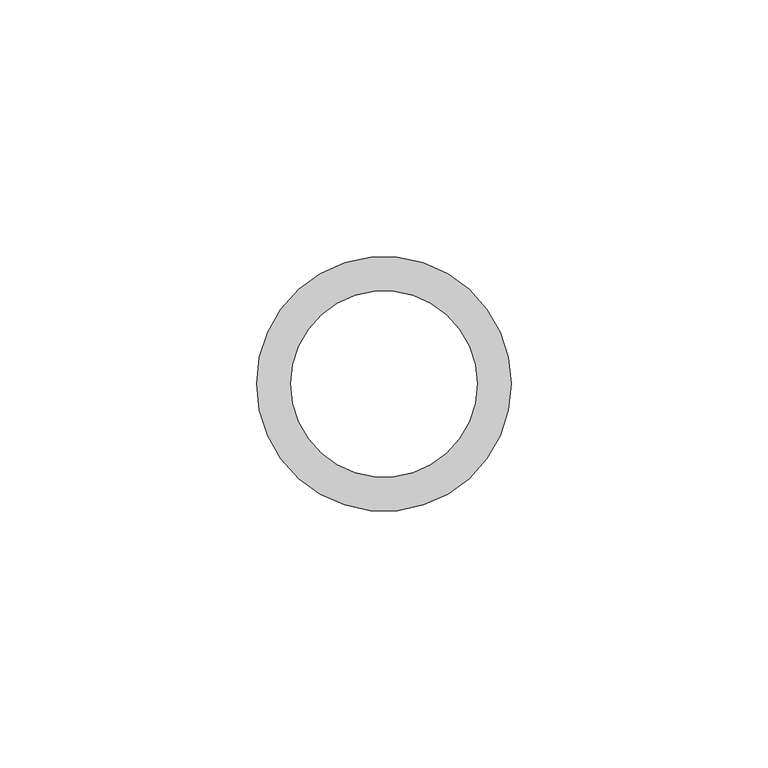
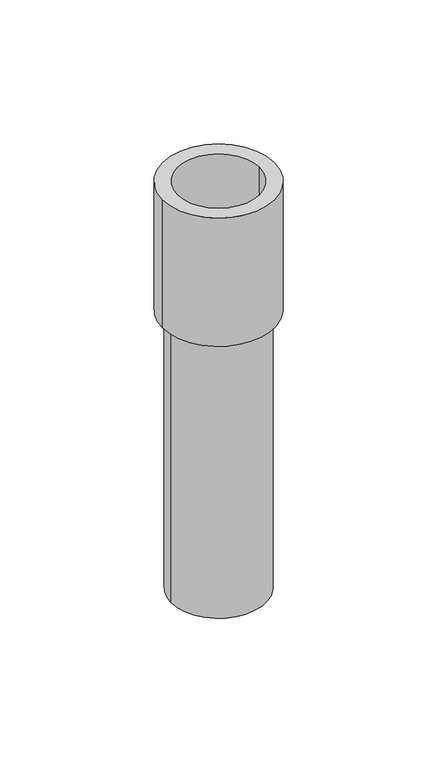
"""IFC4 building model written with IfcOpenShell, lengths in millimetres: proxy geometry, AK_アルバ用大引受ジャッキかさ上げ金具 : AK_アルバ用大引受ジャッキかさ上げ金具."""

from ifc_helpers import new_model, si_unit, point, frame, origin, origin_with_axes, origin_2d, place, context, project, spatial, circle_curve, trimmed, segment, composite_curve, outline, extrude, source, transform, mapped, element, save


def generic_models_89b152cf(model_context):
    return source(origin(), model_context, "Body", "SweptSolid", [
        extrude(outline(composite_curve([segment(trimmed(circle_curve(origin_2d(), 20.95), [point((-20.95, 0.0))], [point((20.95, 0.0))], False, "CARTESIAN"), True, "CONTINUOUS"), segment(trimmed(circle_curve(origin_2d(), 20.95), [point((20.95, 0.0))], [point((-20.95, 0.0))], False, "CARTESIAN"), True, "CONTINUOUS")], self_intersect=False), holes=[composite_curve([segment(trimmed(circle_curve(origin_2d(), 18.15), [point((-18.15, 0.0))], [point((18.15, 0.0))], True, "CARTESIAN"), True, "CONTINUOUS"), segment(trimmed(circle_curve(origin_2d(), 18.15), [point((18.15, 0.0))], [point((-18.15, 0.0))], True, "CARTESIAN"), True, "CONTINUOUS")], self_intersect=False)]), frame((0.0, 0.0, -130.0), z_axis=(0.0, 0.0, 1.0), x_axis=(1.0, 0.0, 0.0)), (0.0, 0.0, 1.0), 130.0),
        extrude(outline(composite_curve([segment(trimmed(circle_curve(origin_2d(), 24.8), [point((-24.8, 0.0))], [point((24.8, 0.0))], False, "CARTESIAN"), True, "CONTINUOUS"), segment(trimmed(circle_curve(origin_2d(), 24.8), [point((24.8, 0.0))], [point((-24.8, 0.0))], False, "CARTESIAN"), True, "CONTINUOUS")], self_intersect=False), holes=[composite_curve([segment(trimmed(circle_curve(origin_2d(), 18.15), [point((-18.15, 0.0))], [point((18.15, 0.0))], True, "CARTESIAN"), True, "CONTINUOUS"), segment(trimmed(circle_curve(origin_2d(), 18.15), [point((18.15, 0.0))], [point((-18.15, 0.0))], True, "CARTESIAN"), True, "CONTINUOUS")], self_intersect=False)]), origin_with_axes(), (0.0, 0.0, 1.0), 60.0),
    ])


if __name__ == "__main__":
    model = new_model("IFC4")
    model_context = context("Model", 3, world=origin())
    ifc_project = project(units=[si_unit("LENGTHUNIT", "METRE", prefix="MILLI")], contexts=[model_context])
    site = spatial("IfcSite", under=ifc_project)
    building = spatial("IfcBuilding", under=site)
    placement = place(None, origin())
    generic_models_shape = generic_models_89b152cf(model_context)
    element("IfcBuildingElementProxy", 1, Name="AK_アルバ用大引受ジャッキかさ上げ金具 : AK_アルバ用大引受ジャッキかさ上げ金具", ObjectType="AK_アルバ用大引受ジャッキかさ上げ金具 : AK_アルバ用大引受ジャッキかさ上げ金具", at=placement, inside=building, context=model_context, shape_type="MappedRepresentation", body=[
        mapped(generic_models_shape, transform((0.0, 0.0, 0.0), x_axis=(1.0, 0.0, 0.0), y_axis=(0.0, 1.0, 0.0), z_axis=(0.0, 0.0, 1.0))),
    ])
    save(model, "model.ifc")
